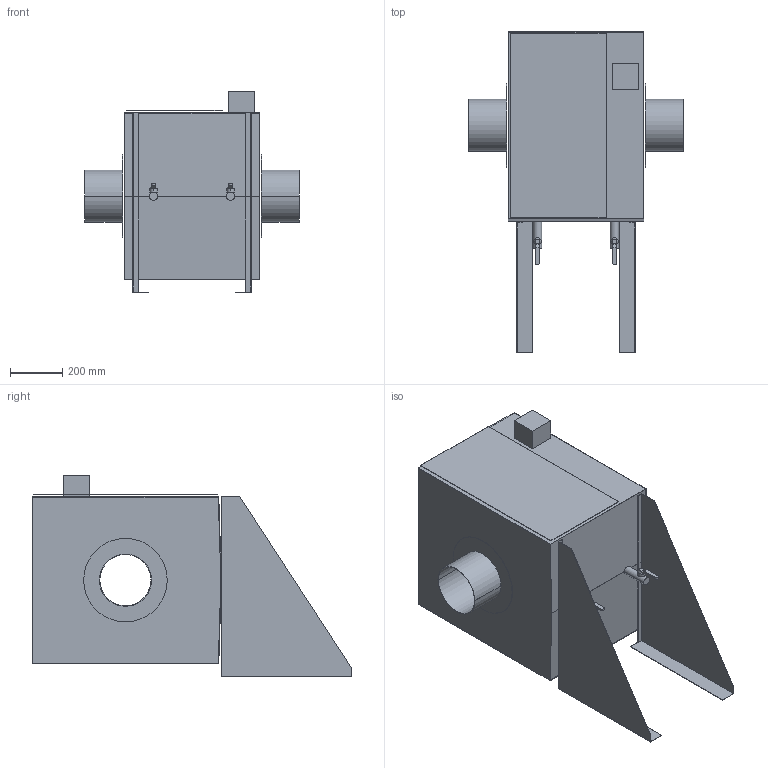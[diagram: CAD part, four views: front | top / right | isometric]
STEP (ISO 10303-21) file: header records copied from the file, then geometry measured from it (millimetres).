
FILE_DESCRIPTION((''),'2;1');
FILE_NAME('51577262','2021-01-22T06:42:03',('slc'),('HUBER SE'),'CREO PARAMETRIC BY PTC INC, 2019224','CREO PARAMETRIC BY PTC INC, 2019224','');
FILE_SCHEMA(('AUTOMOTIVE_DESIGN { 1 0 10303 214 1 1 1 1 }'));
Length unit declared in the file: millimetre
Products named in the file (1): 51577262
Bounding box: 820 x 1225 x 772 mm (x, y, z)
Volume: 7582073.2 mm3; surface area: 6645765.8 mm2
Topology: 12 solids, 12 shells, 105 faces, 224 edges, 148 vertices
Faces by surface type: plane 75, cylinder 26, cone 4
Entity records: 3333 total; most frequent: DIRECTION 490, CARTESIAN_POINT 479, ORIENTED_EDGE 448, EDGE_CURVE 224, VECTOR 168, LINE 168, AXIS2_PLACEMENT_3D 161, VERTEX_POINT 148
